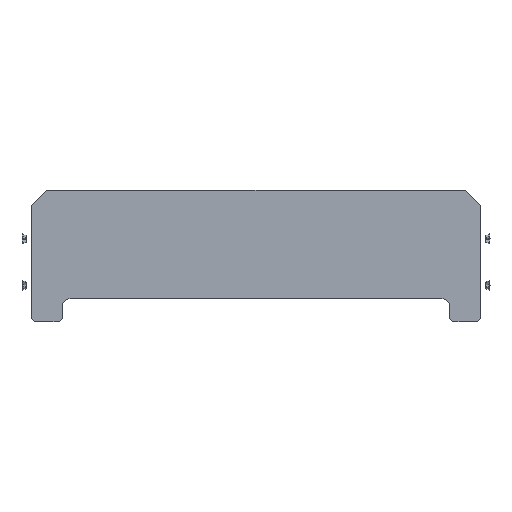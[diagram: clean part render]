
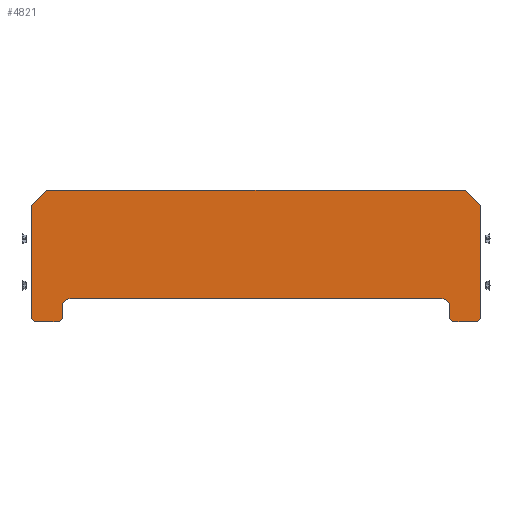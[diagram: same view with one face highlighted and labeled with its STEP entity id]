
A CAD part, top view. The second image highlights one B-rep face of the part: STEP entity #4821.
In plain terms, the highlighted planar face has unit normal (0, 0, 1).
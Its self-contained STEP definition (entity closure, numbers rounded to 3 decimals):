
#4006=CARTESIAN_POINT(' ',(-145.,25.,10.));
#4011=DIRECTION(' ',(0.,-1.,0.));
#4016=VECTOR(' ',#4011,1.);
#4021=LINE('',#4006,#4016);
#4026=CARTESIAN_POINT(' ',(-145.,25.,10.));
#4027=VERTEX_POINT(' ',#4026);
#4031=CARTESIAN_POINT(' ',(-145.,-48.,10.));
#4032=VERTEX_POINT(' ',#4031);
#4036=EDGE_CURVE(' ',#4027,#4032,#4021,.T.);
#4181=DIRECTION(' ',(-0.,0.,1.));
#4186=CARTESIAN_POINT(' ',(-145.,-50.,10.));
#4191=DIRECTION(' ',(1.,0.,0.));
#4196=AXIS2_PLACEMENT_3D(' ',#4186,#4181,#4191);
#4201=PLANE('NONE',#4196);
#4206=CARTESIAN_POINT(' ',(-127.,-50.,10.));
#4211=DIRECTION(' ',(0.707,0.707,0.));
#4216=VECTOR(' ',#4211,1.);
#4221=LINE('',#4206,#4216);
#4226=CARTESIAN_POINT(' ',(-127.,-50.,10.));
#4227=VERTEX_POINT(' ',#4226);
#4231=CARTESIAN_POINT(' ',(-125.,-48.,10.));
#4232=VERTEX_POINT(' ',#4231);
#4236=EDGE_CURVE(' ',#4227,#4232,#4221,.T.);
#4241=ORIENTED_EDGE(' ',*,*,#4236,.T.);
#4246=CARTESIAN_POINT(' ',(-125.,-48.,10.));
#4251=DIRECTION(' ',(0.,1.,0.));
#4256=VECTOR(' ',#4251,1.);
#4261=LINE('',#4246,#4256);
#4266=CARTESIAN_POINT(' ',(-125.,-40.,10.));
#4267=VERTEX_POINT(' ',#4266);
#4271=EDGE_CURVE(' ',#4232,#4267,#4261,.T.);
#4276=ORIENTED_EDGE(' ',*,*,#4271,.T.);
#4281=CARTESIAN_POINT(' ',(-120.,-40.,10.));
#4286=DIRECTION(' ',(0.,-0.,-1.));
#4291=DIRECTION(' ',(-1.,0.,0.));
#4296=AXIS2_PLACEMENT_3D(' ',#4281,#4286,#4291);
#4301=CIRCLE('',#4296,5.);
#4306=CARTESIAN_POINT(' ',(-120.,-35.,10.));
#4307=VERTEX_POINT(' ',#4306);
#4311=EDGE_CURVE(' ',#4267,#4307,#4301,.T.);
#4316=ORIENTED_EDGE(' ',*,*,#4311,.T.);
#4321=CARTESIAN_POINT(' ',(-120.,-35.,10.));
#4326=DIRECTION(' ',(1.,0.,0.));
#4331=VECTOR(' ',#4326,1.);
#4336=LINE('',#4321,#4331);
#4341=CARTESIAN_POINT(' ',(-94.75,-35.,10.));
#4342=VERTEX_POINT(' ',#4341);
#4346=EDGE_CURVE(' ',#4307,#4342,#4336,.T.);
#4351=ORIENTED_EDGE(' ',*,*,#4346,.T.);
#4356=CARTESIAN_POINT(' ',(-94.75,-35.,10.));
#4361=DIRECTION(' ',(1.,0.,0.));
#4366=VECTOR(' ',#4361,1.);
#4371=LINE('',#4356,#4366);
#4376=CARTESIAN_POINT(' ',(94.75,-35.,10.));
#4377=VERTEX_POINT(' ',#4376);
#4381=EDGE_CURVE(' ',#4342,#4377,#4371,.T.);
#4386=ORIENTED_EDGE(' ',*,*,#4381,.T.);
#4391=CARTESIAN_POINT(' ',(94.75,-35.,10.));
#4396=DIRECTION(' ',(1.,0.,0.));
#4401=VECTOR(' ',#4396,1.);
#4406=LINE('',#4391,#4401);
#4411=CARTESIAN_POINT(' ',(120.,-35.,10.));
#4412=VERTEX_POINT(' ',#4411);
#4416=EDGE_CURVE(' ',#4377,#4412,#4406,.T.);
#4421=ORIENTED_EDGE(' ',*,*,#4416,.T.);
#4426=CARTESIAN_POINT(' ',(120.,-40.,10.));
#4431=DIRECTION(' ',(0.,0.,-1.));
#4436=DIRECTION(' ',(0.,1.,0.));
#4441=AXIS2_PLACEMENT_3D(' ',#4426,#4431,#4436);
#4446=CIRCLE('',#4441,5.);
#4451=CARTESIAN_POINT(' ',(125.,-40.,10.));
#4452=VERTEX_POINT(' ',#4451);
#4456=EDGE_CURVE(' ',#4412,#4452,#4446,.T.);
#4461=ORIENTED_EDGE(' ',*,*,#4456,.T.);
#4466=CARTESIAN_POINT(' ',(125.,-48.,10.));
#4471=DIRECTION(' ',(0.,1.,0.));
#4476=VECTOR(' ',#4471,1.);
#4481=LINE('',#4466,#4476);
#4486=CARTESIAN_POINT(' ',(125.,-48.,10.));
#4487=VERTEX_POINT(' ',#4486);
#4491=EDGE_CURVE(' ',#4487,#4452,#4481,.T.);
#4496=ORIENTED_EDGE(' ',*,*,#4491,.F.);
#4501=CARTESIAN_POINT(' ',(125.,-48.,10.));
#4506=DIRECTION(' ',(0.707,-0.707,0.));
#4511=VECTOR(' ',#4506,1.);
#4516=LINE('',#4501,#4511);
#4521=CARTESIAN_POINT(' ',(127.,-50.,10.));
#4522=VERTEX_POINT(' ',#4521);
#4526=EDGE_CURVE(' ',#4487,#4522,#4516,.T.);
#4531=ORIENTED_EDGE(' ',*,*,#4526,.T.);
#4536=CARTESIAN_POINT(' ',(143.,-50.,10.));
#4541=DIRECTION(' ',(-1.,0.,0.));
#4546=VECTOR(' ',#4541,1.);
#4551=LINE('',#4536,#4546);
#4556=CARTESIAN_POINT(' ',(143.,-50.,10.));
#4557=VERTEX_POINT(' ',#4556);
#4561=EDGE_CURVE(' ',#4557,#4522,#4551,.T.);
#4566=ORIENTED_EDGE(' ',*,*,#4561,.F.);
#4571=CARTESIAN_POINT(' ',(143.,-50.,10.));
#4576=DIRECTION(' ',(0.707,0.707,0.));
#4581=VECTOR(' ',#4576,1.);
#4586=LINE('',#4571,#4581);
#4591=CARTESIAN_POINT(' ',(145.,-48.,10.));
#4592=VERTEX_POINT(' ',#4591);
#4596=EDGE_CURVE(' ',#4557,#4592,#4586,.T.);
#4601=ORIENTED_EDGE(' ',*,*,#4596,.T.);
#4606=CARTESIAN_POINT(' ',(145.,25.,10.));
#4611=DIRECTION(' ',(0.,-1.,0.));
#4616=VECTOR(' ',#4611,1.);
#4621=LINE('',#4606,#4616);
#4626=CARTESIAN_POINT(' ',(145.,25.,10.));
#4627=VERTEX_POINT(' ',#4626);
#4631=EDGE_CURVE(' ',#4627,#4592,#4621,.T.);
#4636=ORIENTED_EDGE(' ',*,*,#4631,.F.);
#4641=CARTESIAN_POINT(' ',(145.,25.,10.));
#4646=DIRECTION(' ',(-0.707,0.707,0.));
#4651=VECTOR(' ',#4646,1.);
#4656=LINE('',#4641,#4651);
#4661=CARTESIAN_POINT(' ',(135.,35.,10.));
#4662=VERTEX_POINT(' ',#4661);
#4666=EDGE_CURVE(' ',#4627,#4662,#4656,.T.);
#4671=ORIENTED_EDGE(' ',*,*,#4666,.T.);
#4676=CARTESIAN_POINT(' ',(-135.,35.,10.));
#4681=DIRECTION(' ',(1.,0.,0.));
#4686=VECTOR(' ',#4681,1.);
#4691=LINE('',#4676,#4686);
#4696=CARTESIAN_POINT(' ',(-135.,35.,10.));
#4697=VERTEX_POINT(' ',#4696);
#4701=EDGE_CURVE(' ',#4697,#4662,#4691,.T.);
#4706=ORIENTED_EDGE(' ',*,*,#4701,.F.);
#4711=CARTESIAN_POINT(' ',(-135.,35.,10.));
#4716=DIRECTION(' ',(-0.707,-0.707,0.));
#4721=VECTOR(' ',#4716,1.);
#4726=LINE('',#4711,#4721);
#4731=EDGE_CURVE(' ',#4697,#4027,#4726,.T.);
#4736=ORIENTED_EDGE(' ',*,*,#4731,.T.);
#4741=ORIENTED_EDGE(' ',*,*,#4036,.T.);
#4746=CARTESIAN_POINT(' ',(-145.,-48.,10.));
#4751=DIRECTION(' ',(0.707,-0.707,0.));
#4756=VECTOR(' ',#4751,1.);
#4761=LINE('',#4746,#4756);
#4766=CARTESIAN_POINT(' ',(-143.,-50.,10.));
#4767=VERTEX_POINT(' ',#4766);
#4771=EDGE_CURVE(' ',#4032,#4767,#4761,.T.);
#4776=ORIENTED_EDGE(' ',*,*,#4771,.T.);
#4781=CARTESIAN_POINT(' ',(-127.,-50.,10.));
#4786=DIRECTION(' ',(-1.,0.,0.));
#4791=VECTOR(' ',#4786,1.);
#4796=LINE('',#4781,#4791);
#4801=EDGE_CURVE(' ',#4227,#4767,#4796,.T.);
#4806=ORIENTED_EDGE(' ',*,*,#4801,.F.);
#4811=EDGE_LOOP(' ',(#4241,#4276,#4316,#4351,#4386,#4421,#4461,#4496,#4531,#4566,#4601,#4636,#4671,#4706,#4736,#4741,#4776,#4806));
#4816=FACE_OUTER_BOUND(' ',#4811,.T.);
#4821=ADVANCED_FACE('NONE',(#4816),#4201,.T.);
